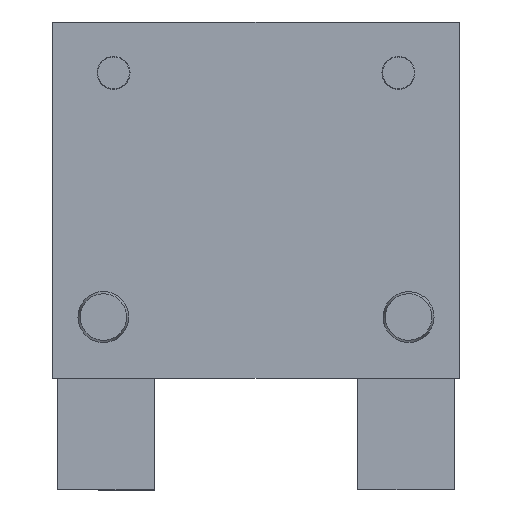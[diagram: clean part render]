
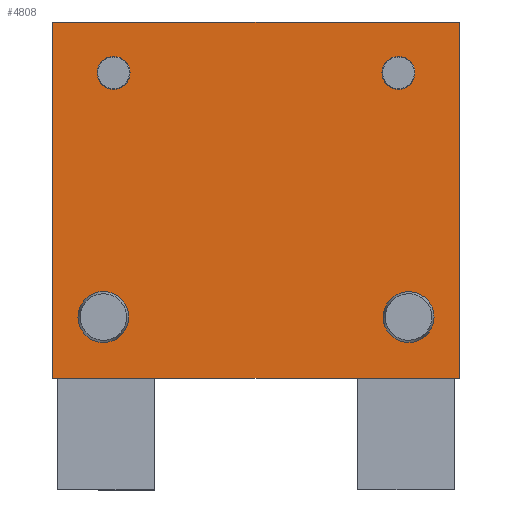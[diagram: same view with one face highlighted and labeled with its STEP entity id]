
A CAD part, left-side view. The second image highlights one B-rep face of the part: STEP entity #4808.
In plain terms, the highlighted planar face has unit normal (-1, 0, 0).
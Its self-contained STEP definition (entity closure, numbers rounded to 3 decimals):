
#4524=CARTESIAN_POINT('',(-12.5,20.0,0.));
#4525=VERTEX_POINT('',#4524);
#4534=CARTESIAN_POINT('',(-12.5,20.0,35.));
#4535=VERTEX_POINT('',#4534);
#4536=CARTESIAN_POINT('',(-12.5,20.0,35.));
#4537=DIRECTION('',(0.0,0.0,-1.0));
#4538=VECTOR('',#4537,35.);
#4539=LINE('',#4536,#4538);
#4540=EDGE_CURVE('',#4535,#4525,#4539,.T.);
#4636=CARTESIAN_POINT('',(-12.5,-20.,0.));
#4637=VERTEX_POINT('',#4636);
#4638=CARTESIAN_POINT('',(-12.5,-20.,35.));
#4639=VERTEX_POINT('',#4638);
#4640=CARTESIAN_POINT('',(-12.5,-20.,0.));
#4641=DIRECTION('',(0.0,0.0,1.0));
#4642=VECTOR('',#4641,35.);
#4643=LINE('',#4640,#4642);
#4644=EDGE_CURVE('',#4637,#4639,#4643,.T.);
#4743=CARTESIAN_POINT('',(-12.5,-20.,35.));
#4744=DIRECTION('',(-1.0,0.0,0.0));
#4745=DIRECTION('',(0.0,0.0,-1.0));
#4746=AXIS2_PLACEMENT_3D('',#4743,#4744,#4745);
#4747=PLANE('',#4746);
#4748=ORIENTED_EDGE('',*,*,#4540,.T.);
#4749=CARTESIAN_POINT('',(-12.5,-20.,0.));
#4750=DIRECTION('',(0.0,1.0,0.0));
#4751=VECTOR('',#4750,40.0);
#4752=LINE('',#4749,#4751);
#4753=EDGE_CURVE('',#4637,#4525,#4752,.T.);
#4754=ORIENTED_EDGE('',*,*,#4753,.F.);
#4755=ORIENTED_EDGE('',*,*,#4644,.T.);
#4756=CARTESIAN_POINT('',(-12.5,-20.,35.));
#4757=DIRECTION('',(0.0,1.0,0.0));
#4758=VECTOR('',#4757,40.0);
#4759=LINE('',#4756,#4758);
#4760=EDGE_CURVE('',#4639,#4535,#4759,.T.);
#4761=ORIENTED_EDGE('',*,*,#4760,.T.);
#4762=EDGE_LOOP('',(#4748,#4754,#4755,#4761));
#4763=FACE_OUTER_BOUND('',#4762,.T.);
#4764=CARTESIAN_POINT('',(-12.5,12.5,6.));
#4765=VERTEX_POINT('',#4764);
#4766=CARTESIAN_POINT('',(-12.5,15.,6.));
#4767=DIRECTION('',(1.0,0.0,0.0));
#4768=DIRECTION('',(0.0,-1.0,0.0));
#4769=AXIS2_PLACEMENT_3D('',#4766,#4767,#4768);
#4770=CIRCLE('',#4769,2.5);
#4771=EDGE_CURVE('',#4765,#4765,#4770,.T.);
#4772=ORIENTED_EDGE('',*,*,#4771,.T.);
#4773=EDGE_LOOP('',(#4772));
#4774=FACE_BOUND('',#4773,.T.);
#4775=CARTESIAN_POINT('',(-12.5,-17.5,6.));
#4776=VERTEX_POINT('',#4775);
#4777=CARTESIAN_POINT('',(-12.5,-15.,6.));
#4778=DIRECTION('',(1.0,0.0,0.0));
#4779=DIRECTION('',(0.0,-1.0,0.0));
#4780=AXIS2_PLACEMENT_3D('',#4777,#4778,#4779);
#4781=CIRCLE('',#4780,2.5);
#4782=EDGE_CURVE('',#4776,#4776,#4781,.T.);
#4783=ORIENTED_EDGE('',*,*,#4782,.T.);
#4784=EDGE_LOOP('',(#4783));
#4785=FACE_BOUND('',#4784,.T.);
#4786=CARTESIAN_POINT('',(-12.5,12.379,30.));
#4787=VERTEX_POINT('',#4786);
#4788=CARTESIAN_POINT('',(-12.5,14.,30.));
#4789=DIRECTION('',(1.0,0.0,0.0));
#4790=DIRECTION('',(0.0,-1.0,0.0));
#4791=AXIS2_PLACEMENT_3D('',#4788,#4789,#4790);
#4792=CIRCLE('',#4791,1.621);
#4793=EDGE_CURVE('',#4787,#4787,#4792,.T.);
#4794=ORIENTED_EDGE('',*,*,#4793,.T.);
#4795=EDGE_LOOP('',(#4794));
#4796=FACE_BOUND('',#4795,.T.);
#4797=CARTESIAN_POINT('',(-12.5,-15.621,30.));
#4798=VERTEX_POINT('',#4797);
#4799=CARTESIAN_POINT('',(-12.5,-14.,30.));
#4800=DIRECTION('',(1.0,0.0,0.0));
#4801=DIRECTION('',(0.0,-1.0,0.0));
#4802=AXIS2_PLACEMENT_3D('',#4799,#4800,#4801);
#4803=CIRCLE('',#4802,1.621);
#4804=EDGE_CURVE('',#4798,#4798,#4803,.T.);
#4805=ORIENTED_EDGE('',*,*,#4804,.T.);
#4806=EDGE_LOOP('',(#4805));
#4807=FACE_BOUND('',#4806,.T.);
#4808=ADVANCED_FACE('',(#4763,#4774,#4785,#4796,#4807),#4747,.T.);
